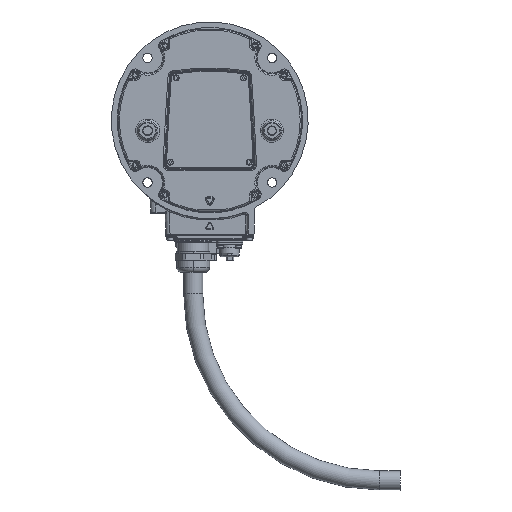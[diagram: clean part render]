
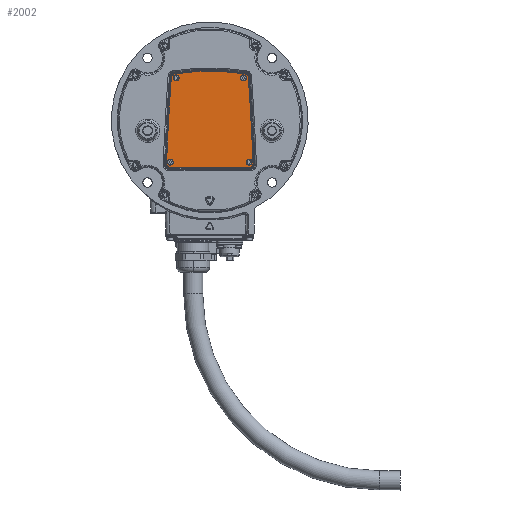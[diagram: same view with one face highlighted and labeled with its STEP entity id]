
A CAD part, front view. The second image highlights one B-rep face of the part: STEP entity #2002.
In plain terms, the highlighted planar face has unit normal (0, -1, 0).
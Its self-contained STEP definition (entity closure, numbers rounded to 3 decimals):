
#488=FACE_BOUND('',#21932,.T.);
#489=FACE_BOUND('',#21933,.T.);
#490=FACE_BOUND('',#21934,.T.);
#491=FACE_BOUND('',#21935,.T.);
#683=PLANE('',#42303);
#2002=ADVANCED_FACE('1300_MODEL_AIR-C001',(#3444,#488,#489,#490,#491),#683,
 .T.);
#3444=FACE_OUTER_BOUND('',#21931,.T.);
#5532=CIRCLE('',#42302,2999.447);
#5533=CIRCLE('',#42304,3.447);
#5534=CIRCLE('',#42305,2999.447);
#5535=CIRCLE('',#42306,3.447);
#5536=CIRCLE('',#42307,219.447);
#5537=CIRCLE('',#42308,3.447);
#5538=CIRCLE('',#42309,3.447);
#5539=CIRCLE('',#42310,2.84);
#5540=CIRCLE('',#42311,2.84);
#5541=CIRCLE('',#42312,2.84);
#5542=CIRCLE('',#42313,2.84);
#5543=CIRCLE('',#42314,2.84);
#5544=CIRCLE('',#42315,2.84);
#5545=CIRCLE('',#42316,2.84);
#5546=CIRCLE('',#42317,2.84);
#9169=ORIENTED_EDGE('',*,*,#14551,.T.);
#9170=ORIENTED_EDGE('',*,*,#14552,.T.);
#9171=ORIENTED_EDGE('',*,*,#14553,.T.);
#9172=ORIENTED_EDGE('',*,*,#14554,.T.);
#9173=ORIENTED_EDGE('',*,*,#14555,.T.);
#9174=ORIENTED_EDGE('',*,*,#14556,.T.);
#9175=ORIENTED_EDGE('',*,*,#14550,.T.);
#9176=ORIENTED_EDGE('',*,*,#14557,.T.);
#9177=ORIENTED_EDGE('',*,*,#14558,.F.);
#9178=ORIENTED_EDGE('',*,*,#14559,.F.);
#9179=ORIENTED_EDGE('',*,*,#14560,.F.);
#9180=ORIENTED_EDGE('',*,*,#14561,.F.);
#9181=ORIENTED_EDGE('',*,*,#14562,.F.);
#9182=ORIENTED_EDGE('',*,*,#14563,.F.);
#9183=ORIENTED_EDGE('',*,*,#14564,.F.);
#9184=ORIENTED_EDGE('',*,*,#14565,.F.);
#14550=EDGE_CURVE('1444',#20106,#20107,#5532,.T.);
#14551=EDGE_CURVE('1445',#20108,#20109,#18327,.T.);
#14552=EDGE_CURVE('1446',#20109,#20110,#5533,.T.);
#14553=EDGE_CURVE('1447',#20110,#20111,#5534,.T.);
#14554=EDGE_CURVE('1448',#20111,#20112,#5535,.T.);
#14555=EDGE_CURVE('1449',#20112,#20113,#5536,.T.);
#14556=EDGE_CURVE('1450',#20113,#20106,#5537,.T.);
#14557=EDGE_CURVE('1451',#20107,#20108,#5538,.T.);
#14558=EDGE_CURVE('1452',#20114,#20115,#5539,.T.);
#14559=EDGE_CURVE('1453',#20115,#20114,#5540,.T.);
#14560=EDGE_CURVE('1454',#20116,#20117,#5541,.T.);
#14561=EDGE_CURVE('1455',#20117,#20116,#5542,.T.);
#14562=EDGE_CURVE('1456',#20118,#20119,#5543,.T.);
#14563=EDGE_CURVE('1457',#20119,#20118,#5544,.T.);
#14564=EDGE_CURVE('1458',#20120,#20121,#5545,.T.);
#14565=EDGE_CURVE('1459',#20121,#20120,#5546,.T.);
#16959=VECTOR('',#43870,76.669);
#18327=LINE('',#34489,#16959);
#20106=VERTEX_POINT('859',#34483);
#20107=VERTEX_POINT('860',#34485);
#20108=VERTEX_POINT('861',#34489);
#20109=VERTEX_POINT('862',#34490);
#20110=VERTEX_POINT('863',#34491);
#20111=VERTEX_POINT('864',#34493);
#20112=VERTEX_POINT('865',#34495);
#20113=VERTEX_POINT('866',#34497);
#20114=VERTEX_POINT('867',#34501);
#20115=VERTEX_POINT('868',#34502);
#20116=VERTEX_POINT('869',#34504);
#20117=VERTEX_POINT('870',#34505);
#20118=VERTEX_POINT('871',#34507);
#20119=VERTEX_POINT('872',#34508);
#20120=VERTEX_POINT('873',#34510);
#20121=VERTEX_POINT('874',#34511);
#21931=EDGE_LOOP('',(#9169,#9170,#9171,#9172,#9173,#9174,#9175,#9176));
#21932=EDGE_LOOP('',(#9177,#9178));
#21933=EDGE_LOOP('',(#9179,#9180));
#21934=EDGE_LOOP('',(#9181,#9182));
#21935=EDGE_LOOP('',(#9183,#9184));
#34483=CARTESIAN_POINT('',(-37.169,4.5,41.588));
#34485=CARTESIAN_POINT('',(-41.779,4.5,-41.858));
#34487=CARTESIAN_POINT('',(2955.116,4.5,-165.575));
#34488=CARTESIAN_POINT('',(42.427,4.5,50.673));
#34489=CARTESIAN_POINT('',(-38.334,4.5,-45.447));
#34490=CARTESIAN_POINT('',(38.334,4.5,-45.447));
#34491=CARTESIAN_POINT('',(41.779,4.5,-41.858));
#34492=CARTESIAN_POINT('',(38.334,4.5,-42.));
#34493=CARTESIAN_POINT('',(37.169,4.5,41.588));
#34494=CARTESIAN_POINT('',(-2955.116,4.5,-165.575));
#34495=CARTESIAN_POINT('',(34.268,4.5,44.755));
#34496=CARTESIAN_POINT('',(33.73,4.5,41.35));
#34497=CARTESIAN_POINT('',(-34.268,4.5,44.755));
#34498=CARTESIAN_POINT('',(0.,4.5,-172.));
#34499=CARTESIAN_POINT('',(-33.73,4.5,41.35));
#34500=CARTESIAN_POINT('',(-38.334,4.5,-42.));
#34501=CARTESIAN_POINT('',(-35.34,4.5,41.));
#34502=CARTESIAN_POINT('',(-29.66,4.5,41.));
#34503=CARTESIAN_POINT('',(-32.5,4.5,41.));
#34504=CARTESIAN_POINT('',(29.66,4.5,41.));
#34505=CARTESIAN_POINT('',(35.34,4.5,41.));
#34506=CARTESIAN_POINT('',(32.5,4.5,41.));
#34507=CARTESIAN_POINT('',(35.16,4.5,-40.5));
#34508=CARTESIAN_POINT('',(40.84,4.5,-40.5));
#34509=CARTESIAN_POINT('',(38.,4.5,-40.5));
#34510=CARTESIAN_POINT('',(-40.84,4.5,-40.5));
#34511=CARTESIAN_POINT('',(-35.16,4.5,-40.5));
#34512=CARTESIAN_POINT('',(-38.,4.5,-40.5));
#42302=AXIS2_PLACEMENT_3D('',#34487,#43871,#45272);
#42303=AXIS2_PLACEMENT_3D('',#34488,#43871,#43879);
#42304=AXIS2_PLACEMENT_3D('',#34492,#43871,#45273);
#42305=AXIS2_PLACEMENT_3D('',#34494,#43871,#45274);
#42306=AXIS2_PLACEMENT_3D('',#34496,#43871,#45275);
#42307=AXIS2_PLACEMENT_3D('',#34498,#43871,#45276);
#42308=AXIS2_PLACEMENT_3D('',#34499,#43871,#45277);
#42309=AXIS2_PLACEMENT_3D('',#34500,#43871,#45278);
#42310=AXIS2_PLACEMENT_3D('',#34503,#43871,#43879);
#42311=AXIS2_PLACEMENT_3D('',#34503,#43871,#43870);
#42312=AXIS2_PLACEMENT_3D('',#34506,#43871,#43879);
#42313=AXIS2_PLACEMENT_3D('',#34506,#43871,#43870);
#42314=AXIS2_PLACEMENT_3D('',#34509,#43871,#43879);
#42315=AXIS2_PLACEMENT_3D('',#34509,#43871,#43870);
#42316=AXIS2_PLACEMENT_3D('',#34512,#43871,#43879);
#42317=AXIS2_PLACEMENT_3D('',#34512,#43871,#43870);
#43870=DIRECTION('',(1.,0.,0.));
#43871=DIRECTION('',(0.,-1.,0.));
#43879=DIRECTION('',(-1.,0.,0.));
#45272=DIRECTION('',(-0.998,0.,0.069));
#45273=DIRECTION('',(0.,0.,-1.));
#45274=DIRECTION('',(0.999,0.,0.041));
#45275=DIRECTION('',(0.998,0.,0.069));
#45276=DIRECTION('',(0.156,0.,0.988));
#45277=DIRECTION('',(-0.156,0.,0.988));
#45278=DIRECTION('',(-0.999,0.,0.041));
